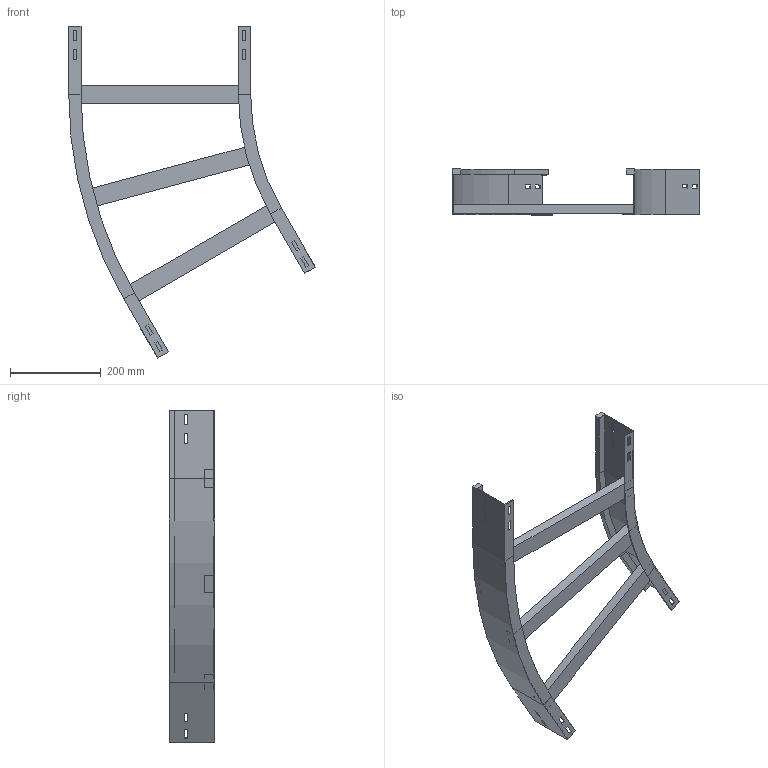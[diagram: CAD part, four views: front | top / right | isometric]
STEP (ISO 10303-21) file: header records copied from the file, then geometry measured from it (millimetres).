
FILE_DESCRIPTION (( 'STEP AP214' ), '1' );
FILE_NAME ('12B5D400.step', '2025-02-21T15:06:39', ( '' ), ( '' ), 'SwSTEP 2.0', 'SolidWorks 2023', '' );
FILE_SCHEMA (( 'AUTOMOTIVE_DESIGN' ));
Length unit declared in the file: millimetre
Products named in the file (4): A2_LONGH.INTERNO 30°_H100_R500; TRAVERSINO_400; A2_LONGH.ESTERNO 30°_H100_R500+400; 12B5D400
Assembly tree (5 placements, depth 2):
  12B5D400
    A2_LONGH.INTERNO 30°_H100_R500
    A2_LONGH.ESTERNO 30°_H100_R500+400
    TRAVERSINO_400  x3
Bounding box: 541.99 x 100 x 729.9 mm (x, y, z)
Volume: 1546554.9 mm3; surface area: 528552.9 mm2
Topology: 5 solids, 5 shells, 134 faces, 340 edges, 216 vertices
Faces by surface type: plane 126, cylinder 8
Entity records: 3821 total; most frequent: CARTESIAN_POINT 646, ORIENTED_EDGE 632, DIRECTION 592, EDGE_CURVE 316, VECTOR 300, LINE 300, VERTEX_POINT 200, EDGE_LOOP 154
